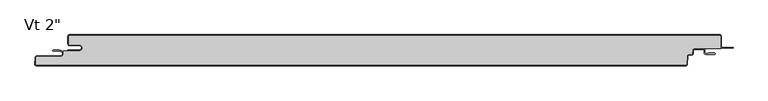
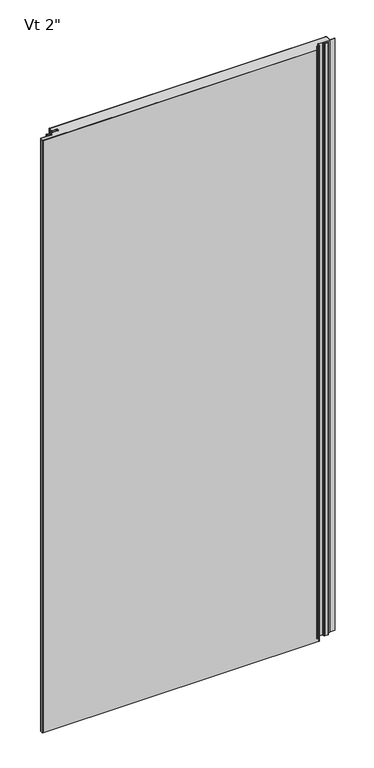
"""IFC4 building model written with IfcOpenShell, lengths in millimetres: plate geometry."""

import ifcopenshell
import ifcopenshell.guid

model = None  # the IFC model being written
_history = None  # IfcOwnerHistory: only IFC2X3 demands one
_inside = {}  # id of a spatial element -> (the spatial element, [elements in it])
_under = {}  # id of a project, library or spatial element -> (it, [spatial elements below it])
_declared = {}  # id of a project -> (the project, [libraries it declares])
_typed = {}  # id of a type object -> (the type object, [elements of that type])
_made_of = {}  # id of a material, layer set ... -> (it, [elements and type objects made of it])


def new_model(schema):
    """Start an empty IFC model of exactly this schema.

    Asked for "IFC4X3", IfcOpenShell would pick the latest addendum, in which some entities
    have other attributes; the version numbers below select the first issue.
    IFC2X3 requires an IfcOwnerHistory on every rooted entity: one is made here for all.
    """
    global model, _history
    if schema == "IFC4X3":
        model = ifcopenshell.file(schema_version=(4, 3, 0, 0))
    else:
        model = ifcopenshell.file(schema=schema)
    _inside.clear()
    _under.clear()
    _declared.clear()
    _typed.clear()
    _made_of.clear()
    _history = None
    if model.schema == "IFC2X3":
        org = make("IfcOrganization", Name="unknown")
        user = make(
            "IfcPersonAndOrganization",
            ThePerson=make("IfcPerson", FamilyName="unknown"),
            TheOrganization=org,
        )
        app = make(
            "IfcApplication",
            ApplicationDeveloper=org,
            Version="unknown",
            ApplicationFullName="unknown",
            ApplicationIdentifier="unknown",
        )
        _history = make(
            "IfcOwnerHistory",
            OwningUser=user,
            OwningApplication=app,
            ChangeAction="ADDED",
            CreationDate=0,
        )
    return model


def make(cls, **values):
    """One entity of the class cls with the attributes given. An attribute that is None is left unset."""
    return model.create_entity(
        cls, **{name: value for name, value in values.items() if value is not None}
    )


def rooted(cls, **values):
    """An entity with a GlobalId (a new one), such as an element, a storey or a relation."""
    return make(cls, GlobalId=ifcopenshell.guid.new(), OwnerHistory=_history, **values)


def si_unit(unit_type, name, prefix=None):
    """IfcSIUnit, for example si_unit("LENGTHUNIT", "METRE", prefix="MILLI")."""
    return make("IfcSIUnit", UnitType=unit_type, Prefix=prefix, Name=name)


def assignment(units):
    """IfcUnitAssignment: the units of a project."""
    return None if units is None else make("IfcUnitAssignment", Units=units)


def point(xyz):
    """IfcCartesianPoint."""
    return None if xyz is None else make("IfcCartesianPoint", Coordinates=xyz)


def direction(xyz):
    """IfcDirection."""
    return None if xyz is None else make("IfcDirection", DirectionRatios=xyz)


def frame(location, z_axis=None, x_axis=None):
    """IfcAxis2Placement3D, a coordinate frame: its origin and axes. An axis left out is left unset."""
    return make(
        "IfcAxis2Placement3D",
        Location=point(location),
        Axis=direction(z_axis),
        RefDirection=direction(x_axis),
    )


def frame_2d(location, x_axis=None):
    """IfcAxis2Placement2D, a coordinate frame in the plane: its origin and x axis."""
    return make(
        "IfcAxis2Placement2D", Location=point(location), RefDirection=direction(x_axis)
    )


def origin():
    """The frame at (0, 0, 0) with its axes left unset."""
    return frame((0.0, 0.0, 0.0))


def origin_with_axes():
    """The frame at (0, 0, 0) with the z axis (0, 0, 1) and the x axis (1, 0, 0) written out."""
    return frame((0.0, 0.0, 0.0), z_axis=(0.0, 0.0, 1.0), x_axis=(1.0, 0.0, 0.0))


def place(relative_to, where):
    """IfcLocalPlacement: puts the frame where relative to a parent placement (None: the world)."""
    return make(
        "IfcLocalPlacement", PlacementRelTo=relative_to, RelativePlacement=where
    )


def context(
    kind, dimensions, precision=None, world=None, true_north=None, identifier=None
):
    """IfcGeometricRepresentationContext, for example the 3D "Model" context."""
    return make(
        "IfcGeometricRepresentationContext",
        ContextIdentifier=identifier,
        ContextType=kind,
        CoordinateSpaceDimension=dimensions,
        Precision=precision,
        WorldCoordinateSystem=world,
        TrueNorth=true_north,
    )


def project(units=None, contexts=None):
    """IfcProject with its units and contexts."""
    return rooted(
        "IfcProject",
        Name="project",
        RepresentationContexts=contexts,
        UnitsInContext=assignment(units),
    )


def spatial(cls, under=None, at=None, **own):
    """A site, building, storey or space (cls), placed at a placement, below another one or the project."""
    s = rooted(cls, ObjectPlacement=at, **own)
    if under is not None:
        _under.setdefault(under.id(), (under, []))[1].append(s)
    return s


def polyline(points):
    """IfcPolyline through the points."""
    return make("IfcPolyline", Points=[point(p) for p in points])


def circle_curve(where, radius):
    """IfcCircle in the frame where."""
    return make("IfcCircle", Position=where, Radius=radius)


def ellipse_curve(where, semi_axis1, semi_axis2):
    """IfcEllipse in the frame where."""
    return make(
        "IfcEllipse", Position=where, SemiAxis1=semi_axis1, SemiAxis2=semi_axis2
    )


def trimmed(basis, trim1, trim2, sense, master):
    """IfcTrimmedCurve: the piece of a basis curve between two trims."""
    return make(
        "IfcTrimmedCurve",
        BasisCurve=basis,
        Trim1=trim1,
        Trim2=trim2,
        SenseAgreement=sense,
        MasterRepresentation=master,
    )


def segment(curve, same_sense, transition):
    """IfcCompositeCurveSegment."""
    return make(
        "IfcCompositeCurveSegment",
        Transition=transition,
        SameSense=same_sense,
        ParentCurve=curve,
    )


def composite_curve(segments, self_intersect=None):
    """IfcCompositeCurve: segments joined end to end."""
    return make("IfcCompositeCurve", Segments=segments, SelfIntersect=self_intersect)


def outline(outer, holes=None, kind="AREA"):
    """IfcArbitraryClosedProfileDef: a profile drawn as a closed curve; with holes, ...WithVoids."""
    if holes is None:
        return make("IfcArbitraryClosedProfileDef", ProfileType=kind, OuterCurve=outer)
    return make(
        "IfcArbitraryProfileDefWithVoids",
        ProfileType=kind,
        OuterCurve=outer,
        InnerCurves=holes,
    )


def extrude(swept, where, along, depth):
    """IfcExtrudedAreaSolid: the profile swept, set in the frame where, extruded along a direction by depth."""
    return make(
        "IfcExtrudedAreaSolid",
        SweptArea=swept,
        Position=where,
        ExtrudedDirection=direction(along),
        Depth=depth,
    )


def shape(context_of_items, identifier, shape_type, items):
    """IfcShapeRepresentation: the items that make up one representation, for example the "Body"."""
    return make(
        "IfcShapeRepresentation",
        ContextOfItems=context_of_items,
        RepresentationIdentifier=identifier,
        RepresentationType=shape_type,
        Items=items,
    )


def source(mapping_origin, context_of_items, identifier, shape_type, items):
    """IfcRepresentationMap: a shape defined once, which mapped items show again and again."""
    return make(
        "IfcRepresentationMap",
        MappingOrigin=mapping_origin,
        MappedRepresentation=shape(context_of_items, identifier, shape_type, items),
    )


def transform(
    local_origin,
    x_axis=None,
    y_axis=None,
    z_axis=None,
    scale=None,
    scale2=None,
    scale3=None,
    uniform=True,
):
    """IfcCartesianTransformationOperator3D, or its non-uniform kind. x_axis, y_axis, z_axis: its Axis1, 2, 3."""
    if uniform:
        return make(
            "IfcCartesianTransformationOperator3D",
            Axis1=direction(x_axis),
            Axis2=direction(y_axis),
            LocalOrigin=point(local_origin),
            Scale=scale,
            Axis3=direction(z_axis),
        )
    return make(
        "IfcCartesianTransformationOperator3DnonUniform",
        Axis1=direction(x_axis),
        Axis2=direction(y_axis),
        LocalOrigin=point(local_origin),
        Scale=scale,
        Axis3=direction(z_axis),
        Scale2=scale2,
        Scale3=scale3,
    )


def mapped(mapping_source, mapping_target):
    """IfcMappedItem: shows the shape of a source again, moved by a transform."""
    return make(
        "IfcMappedItem", MappingSource=mapping_source, MappingTarget=mapping_target
    )


def made_of(thing, what):
    """Note that an element or type object is made of a material, layer set ...; save() writes the relation."""
    if what is not None:
        _made_of.setdefault(what.id(), (what, []))[1].append(thing)
    return thing


def element(
    cls,
    number,
    at=None,
    inside=None,
    cuts=None,
    type_object=None,
    material=None,
    context=None,
    identifier="Body",
    shape_type=None,
    held_by="IfcProductDefinitionShape",
    body=None,
    shapes=None,
    **own,
):
    """One element of the class cls, such as IfcWall. Its Tag is "e" and its number.

    at: its placement. inside: the storey or other place that contains it. cuts: it is an
    opening in that element (IfcRelVoidsElement). A single representation is given by context,
    identifier, shape_type and body (its items); several are given by shapes. held_by: the class
    of the entity that holds the representations. save() writes the other relations.
    """
    e = rooted(cls, Tag="e%d" % number, ObjectPlacement=at, **own)
    if body is not None:
        shapes = [shape(context, identifier, shape_type, body)]
    if shapes is not None:
        e.Representation = make(held_by, Representations=shapes)
    if inside is not None:
        _inside.setdefault(inside.id(), (inside, []))[1].append(e)
    if cuts is not None:
        rooted(
            "IfcRelVoidsElement", RelatingBuildingElement=cuts, RelatedOpeningElement=e
        )
    if type_object is not None:
        _typed.setdefault(type_object.id(), (type_object, []))[1].append(e)
    return made_of(e, material)


def aggregate(whole, parts):
    """IfcRelAggregates: a whole, such as a stair, and the parts it consists of."""
    return rooted("IfcRelAggregates", RelatingObject=whole, RelatedObjects=parts)


def save(model, path):
    """Write the relations noted so far, then the file.

    IfcRelAggregates (storeys below a building ...), IfcRelContainedInSpatialStructure (elements
    in a storey), IfcRelDefinesByType, IfcRelAssociatesMaterial and IfcRelDeclares: one each for
    every whole, place, type object, material and project.
    """
    for whole, parts in _under.values():
        aggregate(whole, parts)
    for where, things in _inside.values():
        rooted(
            "IfcRelContainedInSpatialStructure",
            RelatedElements=things,
            RelatingStructure=where,
        )
    for kind, things in _typed.values():
        rooted("IfcRelDefinesByType", RelatedObjects=things, RelatingType=kind)
    for what, things in _made_of.values():
        rooted("IfcRelAssociatesMaterial", RelatedObjects=things, RelatingMaterial=what)
    for by, libraries in _declared.values():
        rooted("IfcRelDeclares", RelatingContext=by, RelatedDefinitions=libraries)
    model.write(path)


def plane_surface(at):
    """IfcPlane: the flat surface through the origin of the frame at, square to its z axis."""
    return make("IfcPlane", Position=at)


def cylinder_surface(at, radius):
    """IfcCylindricalSurface: all points at the distance radius from the z axis of the frame at."""
    return make("IfcCylindricalSurface", Position=at, Radius=radius)


def revolved_surface(curve, axis_point, axis_direction):
    """IfcSurfaceOfRevolution: the curve turned about the line through axis_point along axis_direction."""
    return make(
        "IfcSurfaceOfRevolution",
        SweptCurve=make("IfcArbitraryOpenProfileDef", ProfileType="CURVE", Curve=curve),
        AxisPosition=make("IfcAxis1Placement", Location=point(axis_point), Axis=direction(axis_direction)),
    )


def extruded_surface(curve, direction_of_extrusion, depth):
    """IfcSurfaceOfLinearExtrusion: the curve pushed along a direction by depth."""
    return make(
        "IfcSurfaceOfLinearExtrusion",
        SweptCurve=make("IfcArbitraryOpenProfileDef", ProfileType="CURVE", Curve=curve),
        ExtrudedDirection=direction(direction_of_extrusion),
        Depth=depth,
    )


def advanced_brep(points, edges, surfaces, faces):
    """IfcAdvancedBrep: a solid bounded by faces that lie on surfaces and meet in shared edges.

    An edge is (start, end): straight between two places in points (the first is 0);
    or (start, end, curve); or (start, end, curve, False) where it runs against its curve.
    A face is (place in surfaces, loops), or (place, loops, False) where it looks against
    its surface's normal. A loop lists edges by number (the first is 1), with a minus sign
    where the edge is run from its end to its start. The first loop is the outer one.
    """
    corners = [point(p) for p in points]
    vertices = [make("IfcVertexPoint", VertexGeometry=c) for c in corners]
    made = []
    for start, end, *more in edges:
        made.append(
            make(
                "IfcEdgeCurve",
                EdgeStart=vertices[start],
                EdgeEnd=vertices[end],
                EdgeGeometry=more[0] if more else make("IfcPolyline", Points=[corners[start], corners[end]]),
                SameSense=more[1] if len(more) > 1 else True,
            )
        )
    hull = []
    for where, loops, *sense in faces:
        bounds = []
        for j, loop in enumerate(loops):
            ring = [make("IfcOrientedEdge", EdgeElement=made[abs(k) - 1], Orientation=k > 0) for k in loop]
            bounds.append(
                make(
                    "IfcFaceOuterBound" if j == 0 else "IfcFaceBound",
                    Bound=make("IfcEdgeLoop", EdgeList=ring),
                    Orientation=True,
                )
            )
        hull.append(make("IfcAdvancedFace", Bounds=bounds, FaceSurface=surfaces[where], SameSense=sense[0] if sense else True))
    return make("IfcAdvancedBrep", Outer=make("IfcClosedShell", CfsFaces=hull))


def plate_aefddf00(model_context):
    return source(origin(), model_context, "Body", "SolidModel", [
        extrude(outline(composite_curve([segment(trimmed(circle_curve(frame_2d((488.3558457, -25.4)), 2.5875), [point((488.3558457, -22.8125))], [point((485.7718918, -25.2645807))], True, "CARTESIAN"), True, "CONTINUOUS"), segment(polyline([(485.7718918, -25.2645807), (485.4698155, -31.028539)]), True, "CONTINUOUS"), segment(trimmed(circle_curve(frame_2d((484.0904585, -30.95625)), 1.38125), [point((485.4698155, -31.028539))], [point((484.0904585, -32.3375))], False, "CARTESIAN"), True, "CONTINUOUS"), segment(polyline([(484.0904585, -32.3375), (479.4448847, -32.3375)]), True, "CONTINUOUS"), segment(trimmed(circle_curve(frame_2d((479.4448847, -34.925)), 2.5875), [point((479.4448847, -32.3375))], [point((476.8609307, -34.7895807))], True, "CARTESIAN"), True, "CONTINUOUS"), segment(polyline([(476.8609307, -34.7895807), (476.1428677, -48.491039)]), True, "CONTINUOUS"), segment(trimmed(circle_curve(frame_2d((474.7635107, -48.41875)), 1.38125), [point((476.1428677, -48.491039))], [point((474.7635107, -49.8))], False, "CARTESIAN"), True, "CONTINUOUS"), segment(polyline([(474.7635107, -49.8), (-584.0781861, -49.8)]), True, "CONTINUOUS"), segment(trimmed(circle_curve(frame_2d((-584.0781861, -48.41875)), 1.38125), [point((-584.0781861, -49.8))], [point((-585.4575431, -48.346461))], False, "CARTESIAN"), True, "CONTINUOUS"), segment(polyline([(-585.4575431, -48.346461), (-584.8751617, -37.233961)]), True, "CONTINUOUS"), segment(trimmed(circle_curve(frame_2d((-583.4958046, -37.30625)), 1.38125), [point((-584.8751617, -37.233961))], [point((-583.4958046, -35.925))], False, "CARTESIAN"), True, "CONTINUOUS"), segment(polyline([(-583.4958046, -35.925), (-545.3125, -35.925)]), True, "CONTINUOUS"), segment(trimmed(circle_curve(frame_2d((-545.3125, -30.95625)), 4.96875), [point((-545.3125, -35.925))], [point((-540.34375, -30.95625))], True, "CARTESIAN"), True, "CONTINUOUS"), segment(polyline([(-540.34375, -30.95625), (-540.34375, -26.4), (-514.35625, -26.4)]), True, "CONTINUOUS"), segment(trimmed(circle_curve(frame_2d((-514.35625, -21.43125)), 4.96875), [point((-514.35625, -26.4))], [point((-514.35625, -16.4625))], True, "CARTESIAN"), True, "CONTINUOUS"), segment(polyline([(-514.35625, -16.4625), (-530.23125, -16.4625)]), True, "CONTINUOUS"), segment(trimmed(circle_curve(frame_2d((-530.23125, -15.08125)), 1.38125), [point((-530.23125, -16.4625))], [point((-531.6125, -15.08125))], False, "CARTESIAN"), True, "CONTINUOUS"), segment(polyline([(-531.6125, -15.08125), (-531.6125, -2.38125)]), True, "CONTINUOUS"), segment(trimmed(circle_curve(frame_2d((-530.23125, -2.38125)), 1.38125), [point((-531.6125, -2.38125))], [point((-530.23125, -1.0))], False, "CARTESIAN"), True, "CONTINUOUS"), segment(polyline([(-530.23125, -1.0), (530.21875, -1.0)]), True, "CONTINUOUS"), segment(trimmed(circle_curve(frame_2d((530.21875, -2.38125)), 1.38125), [point((530.21875, -1.0))], [point((531.6, -2.38125))], False, "CARTESIAN"), True, "CONTINUOUS"), segment(polyline([(531.6, -2.38125), (531.6, -22.8125), (488.3558457, -22.8125)]), True, "CONTINUOUS")], self_intersect=False)), origin_with_axes(), (0.0, 0.0, 1.0), 2400.0),
        extrude(outline(composite_curve([segment(polyline([(-532.6125, -25.4), (-514.35625, -25.4)]), True, "CONTINUOUS"), segment(trimmed(circle_curve(frame_2d((-514.35625, -21.43125)), 3.96875), [point((-514.35625, -25.4))], [point((-514.35625, -17.4625))], True, "CARTESIAN"), True, "CONTINUOUS"), segment(polyline([(-514.35625, -17.4625), (-530.23125, -17.4625)]), True, "CONTINUOUS"), segment(trimmed(circle_curve(frame_2d((-530.23125, -15.08125)), 2.38125), [point((-530.23125, -17.4625))], [point((-532.6125, -15.08125))], False, "CARTESIAN"), True, "CONTINUOUS"), segment(polyline([(-532.6125, -15.08125), (-532.6125, -2.38125)]), True, "CONTINUOUS"), segment(trimmed(circle_curve(frame_2d((-530.23125, -2.38125)), 2.38125), [point((-532.6125, -2.38125))], [point((-530.23125, 0.0))], False, "CARTESIAN"), True, "CONTINUOUS"), segment(polyline([(-530.23125, 0.0), (530.21875, 0.0)]), True, "CONTINUOUS"), segment(trimmed(circle_curve(frame_2d((530.21875, -2.38125)), 2.38125), [point((530.21875, 0.0))], [point((532.6, -2.38125))], False, "CARTESIAN"), True, "CONTINUOUS"), segment(polyline([(532.6, -2.38125), (532.6, -19.446875)]), True, "CONTINUOUS"), segment(trimmed(circle_curve(frame_2d((534.1875, -19.446875)), 1.5875), [point((532.6, -19.446875))], [point((534.1875, -21.034375))], True, "CARTESIAN"), True, "CONTINUOUS"), segment(polyline([(534.1875, -21.034375), (551.65, -21.034375), (551.65, -22.034375), (534.1875, -22.034375)]), True, "CONTINUOUS"), segment(trimmed(circle_curve(frame_2d((534.1875, -19.446875)), 2.5875), [point((534.1875, -22.034375))], [point((531.6, -19.446875))], False, "CARTESIAN"), True, "CONTINUOUS"), segment(polyline([(531.6, -19.446875), (531.6, -2.38125)]), True, "CONTINUOUS"), segment(trimmed(circle_curve(frame_2d((530.21875, -2.38125)), 1.38125), [point((531.6, -2.38125))], [point((530.21875, -1.0))], True, "CARTESIAN"), True, "CONTINUOUS"), segment(polyline([(530.21875, -1.0), (-530.23125, -1.0)]), True, "CONTINUOUS"), segment(trimmed(circle_curve(frame_2d((-530.23125, -2.38125)), 1.38125), [point((-530.23125, -1.0))], [point((-531.6125, -2.38125))], True, "CARTESIAN"), True, "CONTINUOUS"), segment(polyline([(-531.6125, -2.38125), (-531.6125, -15.08125)]), True, "CONTINUOUS"), segment(trimmed(circle_curve(frame_2d((-530.23125, -15.08125)), 1.38125), [point((-531.6125, -15.08125))], [point((-530.23125, -16.4625))], True, "CARTESIAN"), True, "CONTINUOUS"), segment(polyline([(-530.23125, -16.4625), (-514.35625, -16.4625)]), True, "CONTINUOUS"), segment(trimmed(circle_curve(frame_2d((-514.35625, -21.43125)), 4.96875), [point((-514.35625, -16.4625))], [point((-514.35625, -26.4))], False, "CARTESIAN"), True, "CONTINUOUS"), segment(polyline([(-514.35625, -26.4), (-532.6125, -26.4), (-532.6125, -25.4)]), True, "CONTINUOUS")], self_intersect=False)), origin_with_axes(), (0.0, 0.0, 1.0), 2400.0),
        advanced_brep(
        [(-556.6377049, -25.4, 2400.0), (-556.6377049, -26.9875, 2400.0), (-545.3267674, -26.9875, 2400.0), (-545.3267674, -34.925, 2400.0), (-583.5100721, -34.925, 2400.0), (-585.8880586, -37.181625, 2400.0), (-586.4704401, -48.294125, 2400.0), (-584.0924535, -50.8, 2400.0), (474.7635107, -50.8, 2400.0), (477.1414973, -48.543375, 2400.0), (477.8595603, -34.8419167, 2400.0), (479.4448847, -33.3375, 2400.0), (484.0761911, -33.3375, 2400.0), (486.4541776, -31.080875, 2400.0), (486.7562539, -25.3169167, 2400.0), (488.3415783, -23.8125, 2400.0), (503.2169826, -23.8125, 2400.0), (504.8044826, -25.4, 2400.0), (504.8044826, -29.5671875, 2400.0), (507.1857326, -31.9484375, 2400.0), (521.6773532, -31.9484375, 2400.0), (521.6773532, -30.1546875, 2400.0), (511.9482326, -30.1546875, 2400.0), (511.9482326, -30.9484375, 2400.0), (507.1857326, -30.9484375, 2400.0), (505.8044826, -29.5671875, 2400.0), (505.8044826, -25.4, 2400.0), (503.2169826, -22.8125, 2400.0), (488.3415783, -22.8125, 2400.0), (485.7576244, -25.2645807, 2400.0), (485.4555481, -31.028539, 2400.0), (484.0761911, -32.3375, 2400.0), (479.4448847, -32.3375, 2400.0), (476.8609307, -34.7895807, 2400.0), (476.1428677, -48.491039, 2400.0), (474.7635107, -49.8, 2400.0), (-584.0924535, -49.8, 2400.0), (-585.4718106, -48.346461, 2400.0), (-584.8894291, -37.233961, 2400.0), (-583.5100721, -35.925, 2400.0), (-545.3267674, -35.925, 2400.0), (-545.3267674, -25.9875, 2400.0), (-546.9142674, -26.19375, 2400.0), (-546.9142674, -25.4, 2400.0), (-556.6377049, -25.4, 0.0), (-546.9142674, -25.4, 0.0), (-546.9142674, -26.19375, 0.0), (-545.3267674, -25.9875, 0.0), (-545.3267674, -35.925, 0.0), (-583.5100721, -35.925, 0.0), (-584.8894291, -37.233961, 0.0), (-585.4718106, -48.346461, 0.0), (-584.0924535, -49.8, 0.0), (474.7635107, -49.8, 0.0), (476.1428677, -48.491039, 0.0), (476.8609307, -34.7895807, 0.0), (479.4448847, -32.3375, 0.0), (484.0761911, -32.3375, 0.0), (485.4555481, -31.028539, 0.0), (485.7576244, -25.2645807, 0.0), (488.3415783, -22.8125, 0.0), (503.2169826, -22.8125, 0.0), (505.8044826, -25.4, 0.0), (505.8044826, -29.5671875, 0.0), (507.1857326, -30.9484375, 0.0), (511.9482326, -30.9484375, 0.0), (511.9482326, -30.1546875, 0.0), (521.6773532, -30.1546875, 0.0), (521.6773532, -31.9484375, 0.0), (507.1857326, -31.9484375, 0.0), (504.8044826, -29.5671875, 0.0), (504.8044826, -25.4, 0.0), (503.2169826, -23.8125, 0.0), (488.3415783, -23.8125, 0.0), (486.7562539, -25.3169167, 0.0), (486.4541776, -31.080875, 0.0), (484.0761911, -33.3375, 0.0), (479.4448847, -33.3375, 0.0), (477.8595603, -34.8419167, 0.0), (477.1414973, -48.543375, 0.0), (474.7635107, -50.8, 0.0), (-584.0924535, -50.8, 0.0), (-586.4704401, -48.294125, 0.0), (-585.8880586, -37.181625, 0.0), (-583.5100721, -34.925, 0.0), (-545.3267674, -34.925, 0.0), (-545.3267674, -26.9875, 0.0), (-556.6377049, -26.9875, 0.0)],
        [
            (0, 1, circle_curve(frame((-556.6377049, -26.19375, 2400.0), z_axis=(0.0, 0.0, 1.0), x_axis=(-1.0, 0.0, 0.0)), 0.79375)),
            (1, 2),
            (2, 3, circle_curve(frame((-545.3267674, -30.95625, 2400.0), z_axis=(0.0, 0.0, -1.0), x_axis=(-1.0, 0.0, 0.0)), 3.96875)),
            (3, 4),
            (4, 5, circle_curve(frame((-583.5100721, -37.30625, 2400.0), z_axis=(0.0, 0.0, 1.0), x_axis=(-1.0, 0.0, 0.0)), 2.38125)),
            (5, 6),
            (6, 7, circle_curve(frame((-584.0924535, -48.41875, 2400.0), z_axis=(0.0, 0.0, 1.0), x_axis=(-1.0, 0.0, 0.0)), 2.38125)),
            (7, 8),
            (8, 9, circle_curve(frame((474.7635107, -48.41875, 2400.0), z_axis=(0.0, 0.0, 1.0), x_axis=(-1.0, 0.0, 0.0)), 2.38125)),
            (9, 10),
            (10, 11, circle_curve(frame((479.4448847, -34.925, 2400.0), z_axis=(0.0, 0.0, -1.0), x_axis=(-1.0, 0.0, 0.0)), 1.5875)),
            (11, 12),
            (12, 13, circle_curve(frame((484.0761911, -30.95625, 2400.0), z_axis=(0.0, 0.0, 1.0), x_axis=(-1.0, 0.0, 0.0)), 2.38125)),
            (13, 14),
            (14, 15, circle_curve(frame((488.3415783, -25.4, 2400.0), z_axis=(0.0, 0.0, -1.0), x_axis=(-1.0, 0.0, 0.0)), 1.5875)),
            (15, 16),
            (16, 17, circle_curve(frame((503.2169826, -25.4, 2400.0), z_axis=(0.0, 0.0, -1.0), x_axis=(-1.0, 0.0, 0.0)), 1.5875)),
            (17, 18),
            (18, 19, circle_curve(frame((507.1857326, -29.5671875, 2400.0), z_axis=(0.0, 0.0, 1.0), x_axis=(-1.0, 0.0, 0.0)), 2.38125)),
            (19, 20),
            (20, 21, ellipse_curve(frame((521.6773532, -31.0515625, 2400.0), z_axis=(0.0, 0.0, 1.0), x_axis=(0.0, 1.0, 0.0)), 0.896875, 0.7852275)),
            (21, 22),
            (22, 23),
            (23, 24),
            (24, 25, circle_curve(frame((507.1857326, -29.5671875, 2400.0), z_axis=(0.0, 0.0, -1.0), x_axis=(-1.0, 0.0, 0.0)), 1.38125)),
            (25, 26),
            (26, 27, circle_curve(frame((503.2169826, -25.4, 2400.0), z_axis=(0.0, 0.0, 1.0), x_axis=(-1.0, 0.0, 0.0)), 2.5875)),
            (27, 28),
            (28, 29, circle_curve(frame((488.3415783, -25.4, 2400.0), z_axis=(0.0, 0.0, 1.0), x_axis=(-1.0, 0.0, 0.0)), 2.5875)),
            (29, 30),
            (30, 31, circle_curve(frame((484.0761911, -30.95625, 2400.0), z_axis=(0.0, 0.0, -1.0), x_axis=(-1.0, 0.0, 0.0)), 1.38125)),
            (31, 32),
            (32, 33, circle_curve(frame((479.4448847, -34.925, 2400.0), z_axis=(0.0, 0.0, 1.0), x_axis=(-1.0, 0.0, 0.0)), 2.5875)),
            (33, 34),
            (34, 35, circle_curve(frame((474.7635107, -48.41875, 2400.0), z_axis=(0.0, 0.0, -1.0), x_axis=(-1.0, 0.0, 0.0)), 1.38125)),
            (35, 36),
            (36, 37, circle_curve(frame((-584.0924535, -48.41875, 2400.0), z_axis=(0.0, 0.0, -1.0), x_axis=(-1.0, 0.0, 0.0)), 1.38125)),
            (37, 38),
            (38, 39, circle_curve(frame((-583.5100721, -37.30625, 2400.0), z_axis=(0.0, 0.0, -1.0), x_axis=(-1.0, 0.0, 0.0)), 1.38125)),
            (39, 40),
            (40, 41, circle_curve(frame((-545.3267674, -30.95625, 2400.0), z_axis=(0.0, 0.0, 1.0), x_axis=(-1.0, 0.0, 0.0)), 4.96875)),
            (41, 42),
            (42, 43),
            (43, 0),
            (44, 45),
            (45, 46),
            (46, 47),
            (47, 48, circle_curve(frame((-545.3267674, -30.95625, 0.0), z_axis=(0.0, 0.0, -1.0), x_axis=(-1.0, 0.0, 0.0)), 4.96875)),
            (48, 49),
            (49, 50, circle_curve(frame((-583.5100721, -37.30625, 0.0), z_axis=(0.0, 0.0, 1.0), x_axis=(-1.0, 0.0, 0.0)), 1.38125)),
            (50, 51),
            (51, 52, circle_curve(frame((-584.0924535, -48.41875, 0.0), z_axis=(0.0, 0.0, 1.0), x_axis=(-1.0, 0.0, 0.0)), 1.38125)),
            (52, 53),
            (53, 54, circle_curve(frame((474.7635107, -48.41875, 0.0), z_axis=(0.0, 0.0, 1.0), x_axis=(-1.0, 0.0, 0.0)), 1.38125)),
            (54, 55),
            (55, 56, circle_curve(frame((479.4448847, -34.925, 0.0), z_axis=(0.0, 0.0, -1.0), x_axis=(-1.0, 0.0, 0.0)), 2.5875)),
            (56, 57),
            (57, 58, circle_curve(frame((484.0761911, -30.95625, 0.0), z_axis=(0.0, 0.0, 1.0), x_axis=(-1.0, 0.0, 0.0)), 1.38125)),
            (58, 59),
            (59, 60, circle_curve(frame((488.3415783, -25.4, 0.0), z_axis=(0.0, 0.0, -1.0), x_axis=(-1.0, 0.0, 0.0)), 2.5875)),
            (60, 61),
            (61, 62, circle_curve(frame((503.2169826, -25.4, 0.0), z_axis=(0.0, 0.0, -1.0), x_axis=(-1.0, 0.0, 0.0)), 2.5875)),
            (62, 63),
            (63, 64, circle_curve(frame((507.1857326, -29.5671875, 0.0), z_axis=(0.0, 0.0, 1.0), x_axis=(-1.0, 0.0, 0.0)), 1.38125)),
            (64, 65),
            (65, 66),
            (66, 67),
            (67, 68, ellipse_curve(frame((521.6773532, -31.0515625, 0.0), z_axis=(0.0, 0.0, -1.0), x_axis=(0.0, 1.0, 0.0)), 0.896875, 0.7852275)),
            (68, 69),
            (69, 70, circle_curve(frame((507.1857326, -29.5671875, 0.0), z_axis=(0.0, 0.0, -1.0), x_axis=(-1.0, 0.0, 0.0)), 2.38125)),
            (70, 71),
            (71, 72, circle_curve(frame((503.2169826, -25.4, 0.0), z_axis=(0.0, 0.0, 1.0), x_axis=(-1.0, 0.0, 0.0)), 1.5875)),
            (72, 73),
            (73, 74, circle_curve(frame((488.3415783, -25.4, 0.0), z_axis=(0.0, 0.0, 1.0), x_axis=(-1.0, 0.0, 0.0)), 1.5875)),
            (74, 75),
            (75, 76, circle_curve(frame((484.0761911, -30.95625, 0.0), z_axis=(0.0, 0.0, -1.0), x_axis=(-1.0, 0.0, 0.0)), 2.38125)),
            (76, 77),
            (77, 78, circle_curve(frame((479.4448847, -34.925, 0.0), z_axis=(0.0, 0.0, 1.0), x_axis=(-1.0, 0.0, 0.0)), 1.5875)),
            (78, 79),
            (79, 80, circle_curve(frame((474.7635107, -48.41875, 0.0), z_axis=(0.0, 0.0, -1.0), x_axis=(-1.0, 0.0, 0.0)), 2.38125)),
            (80, 81),
            (81, 82, circle_curve(frame((-584.0924535, -48.41875, 0.0), z_axis=(0.0, 0.0, -1.0), x_axis=(-1.0, 0.0, 0.0)), 2.38125)),
            (82, 83),
            (83, 84, circle_curve(frame((-583.5100721, -37.30625, 0.0), z_axis=(0.0, 0.0, -1.0), x_axis=(-1.0, 0.0, 0.0)), 2.38125)),
            (84, 85),
            (85, 86, circle_curve(frame((-545.3267674, -30.95625, 0.0), z_axis=(0.0, 0.0, 1.0), x_axis=(-1.0, 0.0, 0.0)), 3.96875)),
            (86, 87),
            (87, 44, circle_curve(frame((-556.6377049, -26.19375, 0.0), z_axis=(0.0, 0.0, -1.0), x_axis=(-1.0, 0.0, 0.0)), 0.79375)),
            (43, 45),
            (44, 0),
            (87, 1),
            (86, 2),
            (85, 3),
            (84, 4),
            (83, 5),
            (82, 6),
            (81, 7),
            (80, 8),
            (79, 9),
            (78, 10),
            (77, 11),
            (76, 12),
            (75, 13),
            (74, 14),
            (73, 15),
            (38, 50),
            (49, 39),
            (37, 51),
            (36, 52),
            (35, 53),
            (34, 54),
            (33, 55),
            (32, 56),
            (31, 57),
            (30, 58),
            (29, 59),
            (28, 60),
            (23, 65),
            (64, 24),
            (63, 25),
            (62, 26),
            (72, 16),
            (71, 17),
            (70, 18),
            (69, 19),
            (68, 20),
            (27, 61),
            (48, 40),
            (47, 41),
            (42, 46),
            (22, 66),
            (21, 67),
        ],
        [
            plane_surface(frame((-0.00625, -50.8, 2400.0), z_axis=(0.0, 0.0, 1.0), x_axis=(0.0, -1.0, 0.0))),
            plane_surface(frame((-0.00625, -50.8, 0.0), z_axis=(0.0, 0.0, -1.0), x_axis=(0.0, -1.0, 0.0))),
            plane_surface(frame((-556.6377049, -25.4, 2400.0), z_axis=(0.0, 1.0, 0.0), x_axis=(0.0, 0.0, -1.0))),
            cylinder_surface(frame((-556.6377049, -26.19375, 2400.0), z_axis=(0.0, 0.0, 1.0), x_axis=(-1.0, 0.0, 0.0)), 0.79375),
            plane_surface(frame((-545.3267674, -26.9875, 2400.0), z_axis=(0.0, -1.0, 0.0), x_axis=(0.0, 0.0, -1.0))),
            revolved_surface(polyline([(-549.2955174, -30.95625, 0.0), (-549.2955174, -30.95625, 2400.0)]), (-545.3267674, -30.95625, 2400.0), (0.0, 0.0, -1.0)),
            plane_surface(frame((-583.5100721, -34.925, 2400.0), z_axis=(0.0, 1.0, 0.0), x_axis=(0.0, 0.0, -1.0))),
            cylinder_surface(frame((-583.5100721, -37.30625, 2400.0), z_axis=(0.0, 0.0, 1.0), x_axis=(-1.0, 0.0, 0.0)), 2.38125),
            plane_surface(frame((-586.4704401, -48.294125, 2400.0), z_axis=(-0.9986295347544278, 0.052335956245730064, 0.0), x_axis=(0.0, 0.0, -1.0))),
            cylinder_surface(frame((-584.0924535, -48.41875, 2400.0), z_axis=(0.0, 0.0, 1.0), x_axis=(-1.0, 0.0, 0.0)), 2.38125),
            plane_surface(frame((474.7635107, -50.8, 2400.0), z_axis=(0.0, -1.0, 0.0), x_axis=(0.0, 0.0, -1.0))),
            cylinder_surface(frame((474.7635107, -48.41875, 2400.0), z_axis=(0.0, 0.0, 1.0), x_axis=(-1.0, 0.0, 0.0)), 2.38125),
            plane_surface(frame((477.8595603, -34.8419167, 2400.0), z_axis=(0.9986295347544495, -0.05233595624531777, 0.0), x_axis=(0.0, 0.0, -1.0))),
            revolved_surface(polyline([(477.8573847, -34.925, 0.0), (477.8573847, -34.925, 2400.0)]), (479.4448847, -34.925, 2400.0), (0.0, 0.0, -1.0)),
            plane_surface(frame((484.0761911, -33.3375, 2400.0), z_axis=(0.0, -1.0, 0.0), x_axis=(0.0, 0.0, -1.0))),
            cylinder_surface(frame((484.0761911, -30.95625, 2400.0), z_axis=(0.0, 0.0, 1.0), x_axis=(-1.0, 0.0, 0.0)), 2.38125),
            plane_surface(frame((486.7562539, -25.3169167, 2400.0), z_axis=(0.9986295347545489, -0.05233595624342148, 0.0), x_axis=(0.0, 0.0, -1.0))),
            revolved_surface(polyline([(486.7540783, -25.4, 0.0), (486.7540783, -25.4, 2400.0)]), (488.3415783, -25.4, 2400.0), (0.0, 0.0, -1.0)),
            revolved_surface(polyline([(-584.8913221, -37.30625, 0.0), (-584.8913221, -37.30625, 2400.0)]), (-583.5100721, -37.30625, 2400.0), (0.0, 0.0, -1.0)),
            plane_surface(frame((-584.8894291, -37.233961, 2400.0), z_axis=(0.9986295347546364, -0.05233595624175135, 0.0), x_axis=(0.0, 0.0, -1.0))),
            revolved_surface(polyline([(-585.4737035, -48.41875, 0.0), (-585.4737035, -48.41875, 2400.0)]), (-584.0924535, -48.41875, 2400.0), (0.0, 0.0, -1.0)),
            plane_surface(frame((-584.0924535, -49.8, 2400.0), z_axis=(0.0, 1.0, 0.0), x_axis=(0.0, 0.0, -1.0))),
            revolved_surface(polyline([(473.38226069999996, -48.41875, 0.0), (473.38226069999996, -48.41875, 2400.0)]), (474.7635107, -48.41875, 2400.0), (0.0, 0.0, -1.0)),
            plane_surface(frame((476.1428677, -48.491039, 2400.0), z_axis=(-0.9986295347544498, 0.05233595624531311, 0.0), x_axis=(0.0, 0.0, -1.0))),
            cylinder_surface(frame((479.4448847, -34.925, 2400.0), z_axis=(0.0, 0.0, 1.0), x_axis=(-1.0, 0.0, 0.0)), 2.5875),
            plane_surface(frame((479.4448847, -32.3375, 2400.0), z_axis=(0.0, 1.0, 0.0), x_axis=(0.0, 0.0, -1.0))),
            revolved_surface(polyline([(482.6949411, -30.95625, 0.0), (482.6949411, -30.95625, 2400.0)]), (484.0761911, -30.95625, 2400.0), (0.0, 0.0, -1.0)),
            plane_surface(frame((485.4555481, -31.028539, 2400.0), z_axis=(-0.9986295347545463, 0.05233595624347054, 0.0), x_axis=(0.0, 0.0, -1.0))),
            cylinder_surface(frame((488.3415783, -25.4, 2400.0), z_axis=(0.0, 0.0, 1.0), x_axis=(-1.0, 0.0, 0.0)), 2.5875),
            plane_surface(frame((507.1857326, -30.9484375, 2400.0), z_axis=(0.0, 1.0, 0.0), x_axis=(0.0, 0.0, -1.0))),
            revolved_surface(polyline([(505.8044826, -29.5671875, 0.0), (505.8044826, -29.5671875, 2400.0)]), (507.1857326, -29.5671875, 2400.0), (0.0, 0.0, -1.0)),
            plane_surface(frame((505.8044826, -25.4, 2400.0), z_axis=(1.0, 0.0, 0.0), x_axis=(0.0, 0.0, -1.0))),
            plane_surface(frame((503.2169826, -23.8125, 2400.0), z_axis=(0.0, -1.0, 0.0), x_axis=(0.0, 0.0, -1.0))),
            revolved_surface(polyline([(501.6294826, -25.4, 0.0), (501.6294826, -25.4, 2400.0)]), (503.2169826, -25.4, 2400.0), (0.0, 0.0, -1.0)),
            plane_surface(frame((504.8044826, -29.5671875, 2400.0), z_axis=(-1.0, 0.0, 0.0), x_axis=(0.0, 0.0, -1.0))),
            cylinder_surface(frame((507.1857326, -29.5671875, 2400.0), z_axis=(0.0, 0.0, 1.0), x_axis=(-1.0, 0.0, 0.0)), 2.38125),
            plane_surface(frame((521.6773532, -31.9484375, 2400.0), z_axis=(0.0, -1.0, 0.0), x_axis=(0.0, 0.0, -1.0))),
            plane_surface(frame((488.3415783, -22.8125, 2400.0), z_axis=(0.0, 1.0, 0.0), x_axis=(0.0, 0.0, -1.0))),
            cylinder_surface(frame((503.2169826, -25.4, 2400.0), z_axis=(0.0, 0.0, 1.0), x_axis=(-1.0, 0.0, 0.0)), 2.5875),
            plane_surface(frame((-545.3267674, -35.925, 2400.0), z_axis=(0.0, -1.0, 0.0), x_axis=(0.0, 0.0, -1.0))),
            cylinder_surface(frame((-545.3267674, -30.95625, 2400.0), z_axis=(0.0, 0.0, 1.0), x_axis=(-1.0, 0.0, 0.0)), 4.96875),
            plane_surface(frame((-546.9142674, -25.4, 2400.0), z_axis=(1.0, 0.0, 0.0), x_axis=(0.0, 0.0, -1.0))),
            plane_surface(frame((-546.9142674, -26.19375, 2400.0), z_axis=(-0.128838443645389, 0.9916655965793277, 0.0), x_axis=(0.0, 0.0, -1.0))),
            plane_surface(frame((511.9482326, -30.9484375, 2400.0), z_axis=(-1.0, 0.0, 0.0), x_axis=(0.0, 0.0, -1.0))),
            plane_surface(frame((511.9482326, -30.1546875, 2400.0), z_axis=(0.0, 1.0, 0.0), x_axis=(0.0, 0.0, -1.0))),
            extruded_surface(trimmed(ellipse_curve(frame((521.6773532, -31.0515625, 2400.0), z_axis=(0.0, 0.0, -1.0), x_axis=(0.0, 1.0, 0.0)), 0.896875, 0.7852275), [point((521.6773532, -30.1546875, 2400.0))], [point((521.6773532, -31.9484375, 2400.0))], True, "CARTESIAN"), (0.0, 0.0, -2400.0), 2400.0),
        ],
        [
            (0, [[1, 2, 3, 4, 5, 6, 7, 8, 9, 10, 11, 12, 13, 14, 15, 16, 17, 18, 19, 20, 21, 22, 23, 24, 25, 26, 27, 28, 29, 30, 31, 32, 33, 34, 35, 36, 37, 38, 39, 40, 41, 42, 43, 44]]),
            (1, [[45, 46, 47, 48, 49, 50, 51, 52, 53, 54, 55, 56, 57, 58, 59, 60, 61, 62, 63, 64, 65, 66, 67, 68, 69, 70, 71, 72, 73, 74, 75, 76, 77, 78, 79, 80, 81, 82, 83, 84, 85, 86, 87, 88]]),
            (2, [[89, -45, 90, -44]]),
            (3, [[-90, -88, 91, -1]]),
            (4, [[-91, -87, 92, -2]]),
            (5, [[-92, -86, 93, -3]]),
            (6, [[-93, -85, 94, -4]]),
            (7, [[-94, -84, 95, -5]]),
            (8, [[-95, -83, 96, -6]]),
            (9, [[-96, -82, 97, -7]]),
            (10, [[-97, -81, 98, -8]]),
            (11, [[-98, -80, 99, -9]]),
            (12, [[-99, -79, 100, -10]]),
            (13, [[-100, -78, 101, -11]]),
            (14, [[-101, -77, 102, -12]]),
            (15, [[-102, -76, 103, -13]]),
            (16, [[-103, -75, 104, -14]]),
            (17, [[-104, -74, 105, -15]]),
            (18, [[106, -50, 107, -39]]),
            (19, [[108, -51, -106, -38]]),
            (20, [[109, -52, -108, -37]]),
            (21, [[110, -53, -109, -36]]),
            (22, [[111, -54, -110, -35]]),
            (23, [[112, -55, -111, -34]]),
            (24, [[113, -56, -112, -33]]),
            (25, [[114, -57, -113, -32]]),
            (26, [[115, -58, -114, -31]]),
            (27, [[116, -59, -115, -30]]),
            (28, [[117, -60, -116, -29]]),
            (29, [[118, -65, 119, -24]]),
            (30, [[-119, -64, 120, -25]]),
            (31, [[-120, -63, 121, -26]]),
            (32, [[-105, -73, 122, -16]]),
            (33, [[-122, -72, 123, -17]]),
            (34, [[-123, -71, 124, -18]]),
            (35, [[-124, -70, 125, -19]]),
            (36, [[-125, -69, 126, -20]]),
            (37, [[127, -61, -117, -28]]),
            (38, [[-121, -62, -127, -27]]),
            (39, [[-107, -49, 128, -40]]),
            (40, [[-128, -48, 129, -41]]),
            (41, [[130, -46, -89, -43]]),
            (42, [[-129, -47, -130, -42]]),
            (43, [[131, -66, -118, -23]]),
            (44, [[132, -67, -131, -22]]),
            (45, [[-126, -68, -132, -21]]),
        ],
    ),
    ])


if __name__ == "__main__":
    model = new_model("IFC4")
    model_context = context("Model", 3, world=origin())
    ifc_project = project(units=[si_unit("LENGTHUNIT", "METRE", prefix="MILLI")], contexts=[model_context])
    site = spatial("IfcSite", under=ifc_project)
    building = spatial("IfcBuilding", under=site)
    placement = place(None, origin())
    plate_shape = plate_aefddf00(model_context)
    element("IfcPlate", 1, ObjectType="KIP-42-DWTR-R19-CP-Vt-F : Vt 2\"", at=placement, inside=building, context=model_context, shape_type="MappedRepresentation", body=[
        mapped(plate_shape, transform((0.0, 0.0, 0.0), x_axis=(1.0, 0.0, 0.0), y_axis=(0.0, 1.0, 0.0), z_axis=(0.0, 0.0, 1.0))),
    ])
    save(model, "model.ifc")
